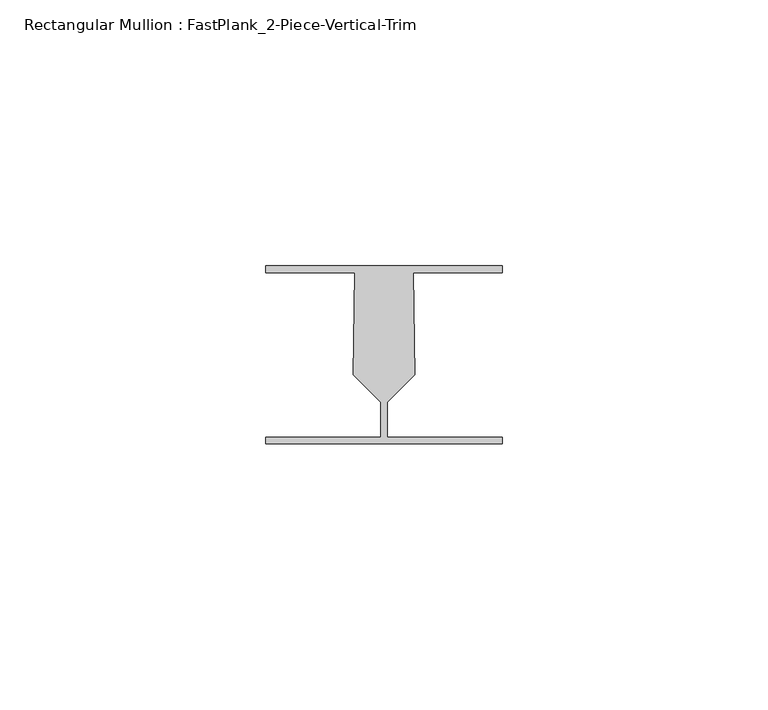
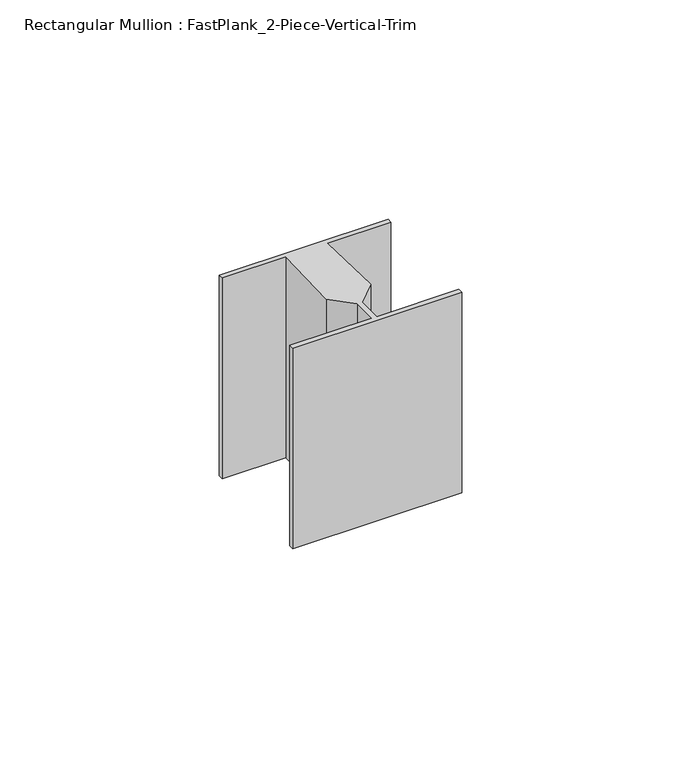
"""IFC4 building model written with IfcOpenShell, lengths in millimetres: member geometry, Rectangular Mullion : FastPlank_2-Piece-Vertical-Trim."""

from ifc_helpers import new_model, si_unit, frame, origin, place, context, project, spatial, polyline, outline, extrude, source, transform, mapped, element, save


def rectangular_mullion_fastplank_2_piece_vertical_trim_79bc82f4(model_context):
    return source(origin(), model_context, "Body", "SweptSolid", [
        extrude(outline(polyline([(22.2251761, -11.8625052), (-22.2251761, -11.8625052), (-22.2251761, -10.5625078), (-0.6499987, -10.5625078), (-0.6499987, -3.992521), (-5.8241876, 1.1816679), (-5.4899028, 20.332833), (-22.2251761, 20.332833), (-22.2251761, 21.6328304), (22.2251761, 21.6328304), (22.2251761, 20.332833), (5.4899028, 20.332833), (5.8241876, 1.1816679), (0.6499987, -3.992521), (0.6499987, -10.5625078), (22.2251761, -10.5625078), (22.2251761, -11.8625052)])), frame((0.0, 0.0, -55.8524796), z_axis=(0.0, 0.0, 1.0), x_axis=(1.0, 0.0, 0.0)), (0.0, 0.0, 1.0), 55.8524796),
    ])


if __name__ == "__main__":
    model = new_model("IFC4")
    model_context = context("Model", 3, world=origin())
    ifc_project = project(units=[si_unit("LENGTHUNIT", "METRE", prefix="MILLI")], contexts=[model_context])
    site = spatial("IfcSite", under=ifc_project)
    building = spatial("IfcBuilding", under=site)
    placement = place(None, origin())
    rectangular_mullion_fastplank_2_piece_vertical_trim_shape = rectangular_mullion_fastplank_2_piece_vertical_trim_79bc82f4(model_context)
    element("IfcMember", 1, ObjectType="Rectangular Mullion : FastPlank_2-Piece-Vertical-Trim", at=placement, inside=building, context=model_context, shape_type="MappedRepresentation", body=[
        mapped(rectangular_mullion_fastplank_2_piece_vertical_trim_shape, transform((0.0, 0.0, 0.0), x_axis=(1.0, 0.0, 0.0), y_axis=(0.0, 1.0, 0.0), z_axis=(0.0, 0.0, 1.0))),
    ])
    save(model, "model.ifc")
